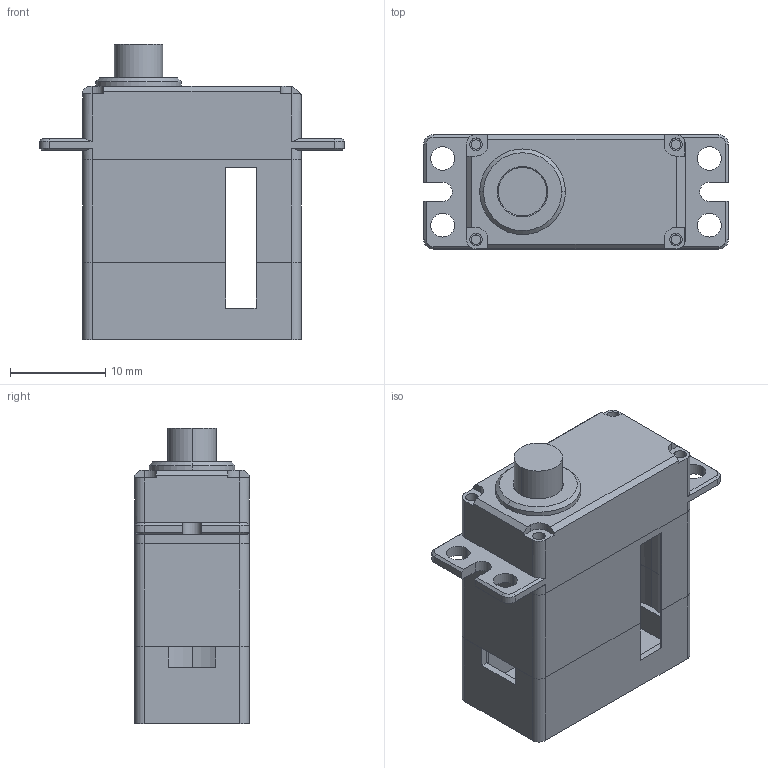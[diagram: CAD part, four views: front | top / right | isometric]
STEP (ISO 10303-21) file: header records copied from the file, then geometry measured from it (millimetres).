
FILE_DESCRIPTION (( 'STEP AP214' ), '1' );
FILE_NAME ('MS325_DM.STEP', '2021-11-16T02:37:50', ( '微软用户' ), ( '微软中国' ), 'SwSTEP 2.0', 'SolidWorks 2016', '' );
FILE_SCHEMA (( 'AUTOMOTIVE_DESIGN' ));
Length unit declared in the file: millimetre
Products named in the file (1): MS325_DM
Bounding box: 32 x 12 x 31 mm (x, y, z)
Volume: 2350.5 mm3; surface area: 5621.7 mm2
Topology: 4 solids, 4 shells, 368 faces, 986 edges, 638 vertices
Faces by surface type: cylinder 169, plane 151, cone 48
Entity records: 12212 total; most frequent: CARTESIAN_POINT 2701, DIRECTION 2026, ORIENTED_EDGE 1968, EDGE_CURVE 984, AXIS2_PLACEMENT_3D 739, VERTEX_POINT 637, VECTOR 548, LINE 548
